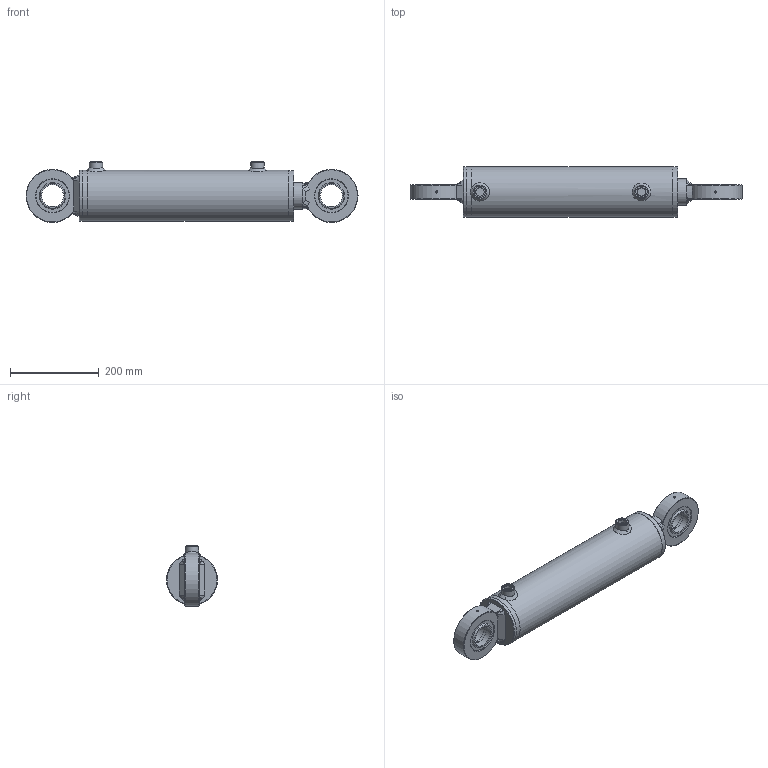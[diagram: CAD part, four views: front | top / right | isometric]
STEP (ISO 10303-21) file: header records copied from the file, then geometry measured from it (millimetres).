
FILE_DESCRIPTION( ( 'Unknown' ), '1' );
FILE_NAME( 'E:/LIBRERIA_3d/CILINDRI/HMC/HMC6600300.stp', 'Unknown', ( 'Unknown' ), ( 'Unknown' ), 'PSStep 17.0.49', 'Unknown', ' ' );
FILE_SCHEMA( ( 'AUTOMOTIVE_DESIGN { 1 0 10303 214 1 1 1 1 }' ) );
Length unit declared in the file: millimetre
Products named in the file (29): CT00100033; STL6700300-oa6; Saldatura d'angolo 1-oa4; FTM6700300-oa5; CBSC220800; CG11510060; HM06600300; CF00100115; Saldatura con preparazione 1-oa2; Saldatura d'angolo 1-oa3; CBS0800000; CDA0003320; APG0800000; SBL6060300; CAGEG12007550; CGE0500000; CAGE120075; Assem1; Saldatura d'angolo 1-oa0; Saldatura d'angolo 2-oa1
Assembly tree (20 placements, depth 4):
  Saldatura d'angolo 1-oa4
  Saldatura d'angolo 1-oa4
  Saldatura d'angolo 1-oa3
  Saldatura d'angolo 1-oa3
  Assem1
    CAGEG12007550  x2
      CGE0500000
      CAGE120075
    HM06600300
      CF00100115
      Saldatura con preparazione 1-oa2
      Saldatura con preparazione 1-oa2
      CBS0800000
      CDA0003320
      APG0800000  x2
      SBL6060300
      CT00100033
        CT00100033
      CG11510060
        CG11510060
      STL6700300-oa6
        FTM6700300-oa5
        CBSC220800
Bounding box: 750 x 115 x 137.5 mm (x, y, z)
Volume: 4000703 mm3; surface area: 720790 mm2
Topology: 26 solids, 26 shells, 380 faces, 844 edges, 503 vertices
Faces by surface type: bspline 140, plane 78, cylinder 78, cone 44, torus 36, sphere 4
Full cylindrical faces by diameter (mm): 3 x4, 4.25 x1, 4.917 x4, 8 x2, 12 x1, 18.631 x2, 19.5 x2, 20.95 x2, 26 x2, 30 x2, 32.4 x1, 33 x5, 39.2 x1, 50 x5, 60 x5, 63 x3, 68.6 x1, 72 x1, 73 x2, 75 x7, 91.5 x1, 93.14 x2, 98.05 x2, 99.9 x1, 100 x1, 100.3 x1, 100.5 x1, 100.6 x1, 101 x1, 102 x3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
Entity records: 18541 total; most frequent: CARTESIAN_POINT 9908, ORIENTED_EDGE 1106, DIRECTION 888, EDGE_CURVE 553, EDGE_LOOP 543, FACE_OUTER_BOUND 452, AXIS2_PLACEMENT_3D 431, VERTEX_POINT 413
